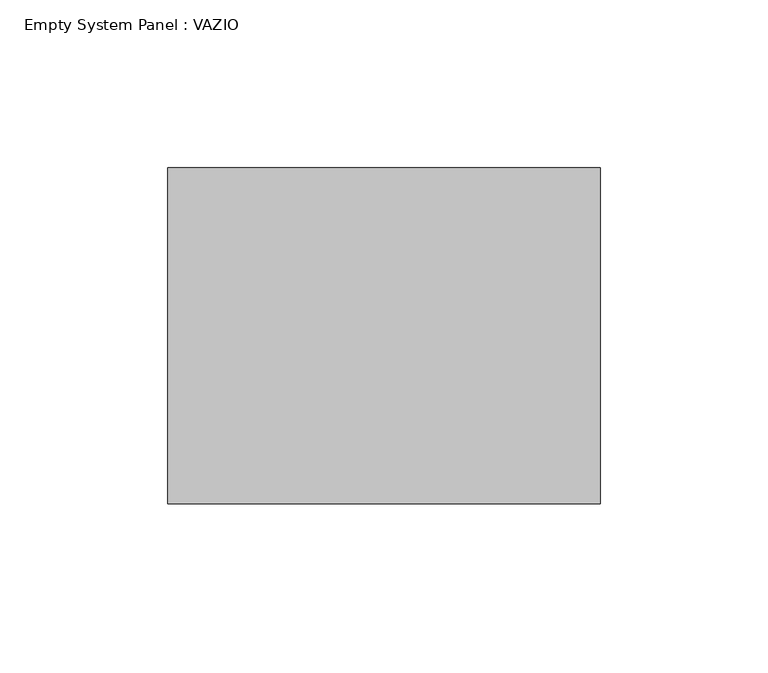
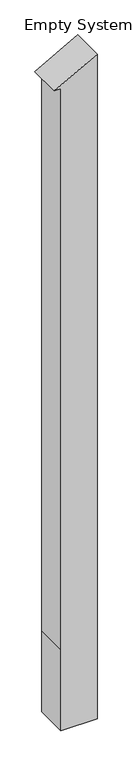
"""IFC4 building model written with IfcOpenShell, lengths in millimetres: plate geometry, Empty System Panel : VAZIO."""

from ifc_helpers import new_model, si_unit, point, frame, frame_2d, origin, place, context, project, spatial, polyline, circle_curve, trimmed, segment, composite_curve, outline, extrude, source, transform, mapped, element, save


def empty_system_panel_vazio_c92cf2f5(model_context):
    return source(origin(), model_context, "Body", "SweptSolid", [
        extrude(outline(composite_curve([segment(polyline([(0.0, -44.3902439), (0.0, 64.3902439), (256.7936467, 64.3902439), (2110.5922198, 64.3902439)]), True, "CONTINUOUS"), segment(trimmed(circle_curve(frame_2d((3146.6227404, -598.5874035)), 1229.9994311), [point((2110.5922198, 64.3902439))], [point((2038.6823109, -64.3902439))], True, "CARTESIAN"), True, "CONTINUOUS"), segment(polyline([(2038.6823109, -64.3902439), (2038.6823109, -44.3902439), (256.7936467, -44.3902439), (0.0, -44.3902439)]), True, "CONTINUOUS")], self_intersect=False)), frame((0.0, -50.0, 0.0), z_axis=(0.0, 1.0, 0.0), x_axis=(0.0, 0.0, 1.0)), (0.0, 0.0, 1.0), 100.0),
    ])


if __name__ == "__main__":
    model = new_model("IFC4")
    model_context = context("Model", 3, world=origin())
    ifc_project = project(units=[si_unit("LENGTHUNIT", "METRE", prefix="MILLI")], contexts=[model_context])
    site = spatial("IfcSite", under=ifc_project)
    building = spatial("IfcBuilding", under=site)
    placement = place(None, origin())
    empty_system_panel_vazio_shape = empty_system_panel_vazio_c92cf2f5(model_context)
    element("IfcPlate", 1, ObjectType="Empty System Panel : VAZIO", at=placement, inside=building, context=model_context, shape_type="MappedRepresentation", body=[
        mapped(empty_system_panel_vazio_shape, transform((0.0, 0.0, 0.0), x_axis=(1.0, 0.0, 0.0), y_axis=(0.0, 1.0, 0.0), z_axis=(0.0, 0.0, 1.0))),
    ])
    save(model, "model.ifc")
